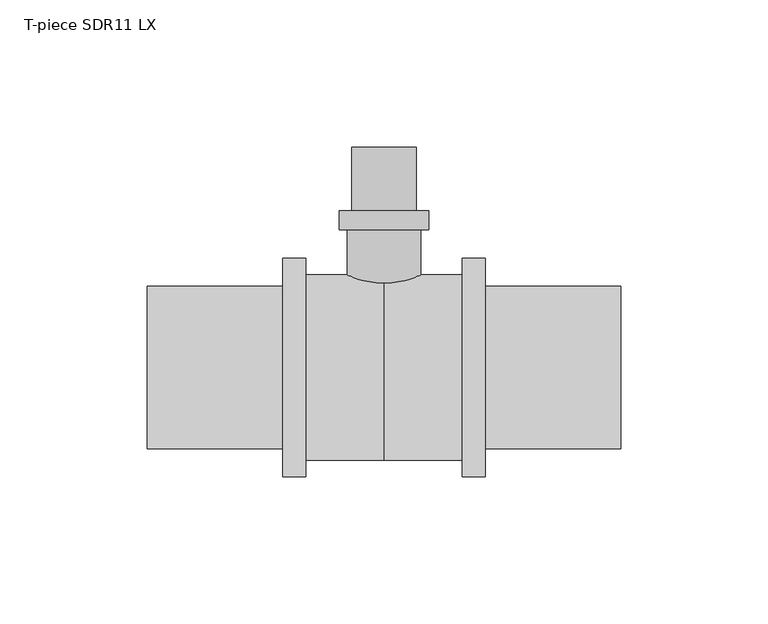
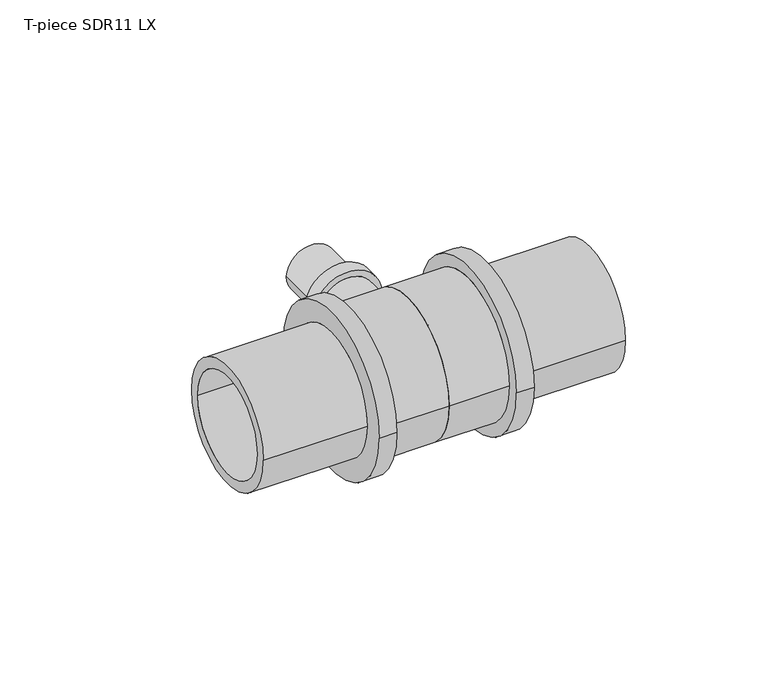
"""IFC4 building model written with IfcOpenShell, lengths in millimetres: pipe fitting geometry, T-piece SDR11 LX : T-piece LX SDR11 LX."""

from ifc_helpers import new_model, si_unit, point, frame, origin, place, context, project, spatial, polyline, circle_curve, ellipse_curve, trimmed, source, transform, mapped, element, save
from ifc_brep_helpers import plane_surface, cylinder_surface, revolved_surface, advanced_brep


def t_piece_sdr11_lx_8f242d45(model_context):
    return source(origin(), model_context, "Body", "AdvancedBrep", [
        advanced_brep(
        [(12.5, 0.7671231, 0.0), (-12.5, 0.7671231, 0.0), (-12.5, 46.8, 0.0), (12.5, 46.8, 0.0), (8.9, 74.7, 0.0), (-8.9, 74.7, 0.0), (-8.9, 0.0, 0.0), (8.9, 0.0, 0.0), (11.0, 53.2, 0.0), (-11.0, 53.2, 0.0), (-11.0, 74.7, 0.0), (11.0, 74.7, 0.0), (15.25, 46.8, 0.0), (-15.25, 46.8, 0.0), (-15.25, 53.2, 0.0), (15.25, 53.2, 0.0)],
        [
            (0, 1, circle_curve(frame((0.0, 0.7671231, 0.0), z_axis=(0.0, 1.0, 0.0), x_axis=(-1.0, 0.0, 0.0)), 12.5)),
            (1, 2),
            (2, 3, circle_curve(frame((0.0, 46.8, 0.0), z_axis=(0.0, -1.0, 0.0), x_axis=(-1.0, 0.0, 0.0)), 12.5)),
            (3, 0),
            (4, 5, circle_curve(frame((0.0, 74.7, 0.0), z_axis=(0.0, 1.0, 0.0), x_axis=(-1.0, 0.0, 0.0)), 8.9)),
            (5, 6),
            (6, 7, circle_curve(frame((0.0, 0.0, 0.0), z_axis=(0.0, -1.0, 0.0), x_axis=(-1.0, 0.0, 0.0)), 8.9)),
            (7, 4),
            (8, 9, circle_curve(frame((0.0, 53.2, 0.0), z_axis=(0.0, 1.0, 0.0), x_axis=(-1.0, 0.0, 0.0)), 11.0)),
            (9, 10),
            (10, 11, circle_curve(frame((0.0, 74.7, 0.0), z_axis=(0.0, -1.0, 0.0), x_axis=(-1.0, 0.0, 0.0)), 11.0)),
            (11, 8),
            (12, 13, circle_curve(frame((0.0, 46.8, 0.0), z_axis=(0.0, 1.0, 0.0), x_axis=(-1.0, 0.0, 0.0)), 15.25)),
            (13, 14),
            (14, 15, circle_curve(frame((0.0, 53.2, 0.0), z_axis=(0.0, -1.0, 0.0), x_axis=(-1.0, 0.0, 0.0)), 15.25)),
            (15, 12),
            (12, 13, circle_curve(frame((0.0, 46.8, 0.0), z_axis=(0.0, -1.0, 0.0), x_axis=(1.0, 0.0, 0.0)), 15.25)),
            (2, 3, circle_curve(frame((0.0, 46.8, 0.0), z_axis=(0.0, 1.0, 0.0), x_axis=(1.0, 0.0, 0.0)), 12.5)),
            (1, 0, circle_curve(frame((0.0, 0.7671231, 0.0), z_axis=(0.0, 1.0, 0.0), x_axis=(1.0, 0.0, 0.0)), 12.5)),
            (5, 4, circle_curve(frame((0.0, 74.7, 0.0), z_axis=(0.0, 1.0, 0.0), x_axis=(1.0, 0.0, 0.0)), 8.9)),
            (7, 6, circle_curve(frame((0.0, 0.0, 0.0), z_axis=(0.0, -1.0, 0.0), x_axis=(1.0, 0.0, 0.0)), 8.9)),
            (10, 11, circle_curve(frame((0.0, 74.7, 0.0), z_axis=(0.0, 1.0, 0.0), x_axis=(1.0, 0.0, 0.0)), 11.0)),
            (9, 8, circle_curve(frame((0.0, 53.2, 0.0), z_axis=(0.0, 1.0, 0.0), x_axis=(1.0, 0.0, 0.0)), 11.0)),
            (14, 15, circle_curve(frame((0.0, 53.2, 0.0), z_axis=(0.0, 1.0, 0.0), x_axis=(1.0, 0.0, 0.0)), 15.25)),
            (6, 1, circle_curve(frame((-4.1462802, 31.1392381, 0.0), z_axis=(0.0, 0.0, -1.0), x_axis=(0.0, -1.0, 0.0)), 31.5)),
            (0, 7, circle_curve(frame((4.1462802, 31.1392381, 0.0), z_axis=(0.0, 0.0, -1.0), x_axis=(0.0, -1.0, 0.0)), 31.5)),
        ],
        [
            cylinder_surface(frame((0.0, 0.0, 0.0), z_axis=(0.0, -1.0, 0.0), x_axis=(-1.0, 0.0, 0.0)), 12.5),
            revolved_surface(polyline([(-8.9, 0.0, 0.0), (-8.9, 74.7, 0.0)]), (0.0, 0.0, 0.0), (0.0, -1.0, 0.0)),
            cylinder_surface(frame((0.0, 0.0, 0.0), z_axis=(0.0, -1.0, 0.0), x_axis=(-1.0, 0.0, 0.0)), 11.0),
            cylinder_surface(frame((0.0, 0.0, 0.0), z_axis=(0.0, -1.0, 0.0), x_axis=(-1.0, 0.0, 0.0)), 15.25),
            plane_surface(frame((0.0, 46.8, 0.0), z_axis=(0.0, -1.0, 0.0), x_axis=(1.0, 0.0, 0.0))),
            cylinder_surface(frame((0.0, 0.0, 0.0), z_axis=(0.0, -1.0, 0.0), x_axis=(1.0, 0.0, 0.0)), 12.5),
            revolved_surface(polyline([(8.9, 0.0, 0.0), (8.9, 74.7, 0.0)]), (0.0, 0.0, 0.0), (0.0, -1.0, 0.0)),
            plane_surface(frame((0.0, 74.7, 0.0), z_axis=(0.0, 1.0, 0.0), x_axis=(1.0, 0.0, 0.0))),
            cylinder_surface(frame((0.0, 0.0, 0.0), z_axis=(0.0, -1.0, 0.0), x_axis=(1.0, 0.0, 0.0)), 11.0),
            plane_surface(frame((0.0, 53.2, 0.0), z_axis=(0.0, 1.0, 0.0), x_axis=(1.0, 0.0, 0.0))),
            cylinder_surface(frame((0.0, 0.0, 0.0), z_axis=(0.0, -1.0, 0.0), x_axis=(1.0, 0.0, 0.0)), 15.25),
            revolved_surface(trimmed(ellipse_curve(frame((-4.1462802, 31.1392381, 0.0), z_axis=(0.0, 0.0, 1.0), x_axis=(0.0, -1.0, 0.0)), 31.5, 31.5), [point((-12.5, 0.7671231, 0.0))], [point((-8.9, 0.0, 0.0))], True, "CARTESIAN"), (0.0, 0.0, 0.0), (0.0, -1.0, 0.0)),
            revolved_surface(trimmed(ellipse_curve(frame((4.1462802, 31.1392381, 0.0), z_axis=(0.0, 0.0, -1.0), x_axis=(0.0, -1.0, 0.0)), 31.5, 31.5), [point((12.5, 0.7671231, 0.0))], [point((8.9, 0.0, 0.0))], True, "CARTESIAN"), (0.0, 0.0, 0.0), (0.0, -1.0, 0.0)),
        ],
        [
            (0, [[1, 2, 3, 4]]),
            (1, [[5, 6, 7, 8]]),
            (2, [[9, 10, 11, 12]]),
            (3, [[13, 14, 15, 16]]),
            (4, [[17, -13], [18, -3]]),
            (5, [[19, -4, -18, -2]]),
            (6, [[20, -8, 21, -6]]),
            (7, [[22, -11], [-20, -5]]),
            (8, [[23, -12, -22, -10]]),
            (9, [[24, -15], [-23, -9]]),
            (10, [[-17, -16, -24, -14]]),
            (11, [[-7, 25, -1, 26]]),
            (12, [[-21, -26, -19, -25]]),
        ],
    ),
        advanced_brep(
        [(26.5, 31.5, 0.0), (26.5, -31.5, 0.0), (0.0, -31.5, 0.0), (0.0, 31.5, 0.0), (0.0, 22.75, 0.0), (0.0, -22.75, 0.0), (80.3, -22.75, 0.0), (80.3, 22.75, 0.0), (80.3, 27.55, 0.0), (80.3, -27.55, 0.0), (34.3, -27.55, 0.0), (34.3, 27.55, 0.0), (34.3, 37.0, 0.0), (34.3, -37.0, 0.0), (26.5, -37.0, 0.0), (26.5, 37.0, 0.0)],
        [
            (0, 1, circle_curve(frame((26.5, 0.0, 0.0), z_axis=(-1.0, 0.0, 0.0), x_axis=(0.0, -1.0, 0.0)), 31.5)),
            (1, 2),
            (2, 3, circle_curve(frame((0.0, 0.0, 0.0), z_axis=(1.0, 0.0, 0.0), x_axis=(0.0, -1.0, 0.0)), 31.5)),
            (3, 0),
            (4, 5, circle_curve(frame((0.0, 0.0, 0.0), z_axis=(-1.0, 0.0, 0.0), x_axis=(0.0, -1.0, 0.0)), 22.75)),
            (5, 6),
            (6, 7, circle_curve(frame((80.3, 0.0, 0.0), z_axis=(1.0, 0.0, 0.0), x_axis=(0.0, -1.0, 0.0)), 22.75)),
            (7, 4),
            (8, 9, circle_curve(frame((80.3, 0.0, 0.0), z_axis=(-1.0, 0.0, 0.0), x_axis=(0.0, -1.0, 0.0)), 27.55)),
            (9, 10),
            (10, 11, circle_curve(frame((34.3, 0.0, 0.0), z_axis=(1.0, 0.0, 0.0), x_axis=(0.0, -1.0, 0.0)), 27.55)),
            (11, 8),
            (12, 13, circle_curve(frame((34.3, 0.0, 0.0), z_axis=(-1.0, 0.0, 0.0), x_axis=(0.0, -1.0, 0.0)), 37.0)),
            (13, 14),
            (14, 15, circle_curve(frame((26.5, 0.0, 0.0), z_axis=(1.0, 0.0, 0.0), x_axis=(0.0, -1.0, 0.0)), 37.0)),
            (15, 12),
            (14, 15, circle_curve(frame((26.5, 0.0, 0.0), z_axis=(-1.0, 0.0, 0.0), x_axis=(0.0, 1.0, 0.0)), 37.0)),
            (0, 1, circle_curve(frame((26.5, 0.0, 0.0), z_axis=(1.0, 0.0, 0.0), x_axis=(0.0, 1.0, 0.0)), 31.5)),
            (3, 2, circle_curve(frame((0.0, 0.0, 0.0), z_axis=(1.0, 0.0, 0.0), x_axis=(0.0, 1.0, 0.0)), 31.5)),
            (4, 5, circle_curve(frame((0.0, 0.0, 0.0), z_axis=(1.0, 0.0, 0.0), x_axis=(0.0, 1.0, 0.0)), 22.75)),
            (7, 6, circle_curve(frame((80.3, 0.0, 0.0), z_axis=(1.0, 0.0, 0.0), x_axis=(0.0, 1.0, 0.0)), 22.75)),
            (8, 9, circle_curve(frame((80.3, 0.0, 0.0), z_axis=(1.0, 0.0, 0.0), x_axis=(0.0, 1.0, 0.0)), 27.55)),
            (11, 10, circle_curve(frame((34.3, 0.0, 0.0), z_axis=(1.0, 0.0, 0.0), x_axis=(0.0, 1.0, 0.0)), 27.55)),
            (12, 13, circle_curve(frame((34.3, 0.0, 0.0), z_axis=(1.0, 0.0, 0.0), x_axis=(0.0, 1.0, 0.0)), 37.0)),
        ],
        [
            cylinder_surface(frame((0.0, 0.0, 0.0), z_axis=(1.0, 0.0, 0.0), x_axis=(0.0, -1.0, 0.0)), 31.5),
            revolved_surface(polyline([(80.3, -22.75, 0.0), (0.0, -22.75, 0.0)]), (0.0, 0.0, 0.0), (1.0, 0.0, 0.0)),
            cylinder_surface(frame((0.0, 0.0, 0.0), z_axis=(1.0, 0.0, 0.0), x_axis=(0.0, -1.0, 0.0)), 27.55),
            cylinder_surface(frame((0.0, 0.0, 0.0), z_axis=(1.0, 0.0, 0.0), x_axis=(0.0, -1.0, 0.0)), 37.0),
            plane_surface(frame((26.5, 0.0, 0.0), z_axis=(-1.0, 0.0, 0.0), x_axis=(0.0, 1.0, 0.0))),
            cylinder_surface(frame((0.0, 0.0, 0.0), z_axis=(1.0, 0.0, 0.0), x_axis=(0.0, 1.0, 0.0)), 31.5),
            plane_surface(frame((0.0, 0.0, 0.0), z_axis=(-1.0, 0.0, 0.0), x_axis=(0.0, 1.0, 0.0))),
            revolved_surface(polyline([(80.3, 22.75, 0.0), (0.0, 22.75, 0.0)]), (0.0, 0.0, 0.0), (1.0, 0.0, 0.0)),
            plane_surface(frame((80.3, 0.0, 0.0), z_axis=(1.0, 0.0, 0.0), x_axis=(0.0, 1.0, 0.0))),
            cylinder_surface(frame((0.0, 0.0, 0.0), z_axis=(1.0, 0.0, 0.0), x_axis=(0.0, 1.0, 0.0)), 27.55),
            plane_surface(frame((34.3, 0.0, 0.0), z_axis=(1.0, 0.0, 0.0), x_axis=(0.0, 1.0, 0.0))),
            cylinder_surface(frame((0.0, 0.0, 0.0), z_axis=(1.0, 0.0, 0.0), x_axis=(0.0, 1.0, 0.0)), 37.0),
        ],
        [
            (0, [[1, 2, 3, 4]]),
            (1, [[5, 6, 7, 8]]),
            (2, [[9, 10, 11, 12]]),
            (3, [[13, 14, 15, 16]]),
            (4, [[17, -15], [18, -1]]),
            (5, [[-18, -4, 19, -2]]),
            (6, [[-19, -3], [20, -5]]),
            (7, [[-20, -8, 21, -6]]),
            (8, [[22, -9], [-21, -7]]),
            (9, [[-22, -12, 23, -10]]),
            (10, [[24, -13], [-23, -11]]),
            (11, [[-24, -16, -17, -14]]),
        ],
    ),
        advanced_brep(
        [(0.0, 31.5, 0.0), (0.0, -31.5, 0.0), (-26.5, -31.5, 0.0), (-26.5, 31.5, 0.0), (-80.3, 22.75, 0.0), (-80.3, -22.75, 0.0), (0.0, -22.75, 0.0), (0.0, 22.75, 0.0), (-34.3, 27.55, 0.0), (-34.3, -27.55, 0.0), (-80.3, -27.55, 0.0), (-80.3, 27.55, 0.0), (-26.5, 37.0, 0.0), (-26.5, -37.0, 0.0), (-34.3, -37.0, 0.0), (-34.3, 37.0, 0.0)],
        [
            (0, 1, circle_curve(frame((0.0, 0.0, 0.0), z_axis=(-1.0, 0.0, 0.0), x_axis=(0.0, -1.0, 0.0)), 31.5)),
            (1, 2),
            (2, 3, circle_curve(frame((-26.5, 0.0, 0.0), z_axis=(1.0, 0.0, 0.0), x_axis=(0.0, -1.0, 0.0)), 31.5)),
            (3, 0),
            (4, 5, circle_curve(frame((-80.3, 0.0, 0.0), z_axis=(-1.0, 0.0, 0.0), x_axis=(0.0, -1.0, 0.0)), 22.75)),
            (5, 6),
            (6, 7, circle_curve(frame((0.0, 0.0, 0.0), z_axis=(1.0, 0.0, 0.0), x_axis=(0.0, -1.0, 0.0)), 22.75)),
            (7, 4),
            (8, 9, circle_curve(frame((-34.3, 0.0, 0.0), z_axis=(-1.0, 0.0, 0.0), x_axis=(0.0, -1.0, 0.0)), 27.55)),
            (9, 10),
            (10, 11, circle_curve(frame((-80.3, 0.0, 0.0), z_axis=(1.0, 0.0, 0.0), x_axis=(0.0, -1.0, 0.0)), 27.55)),
            (11, 8),
            (12, 13, circle_curve(frame((-26.5, 0.0, 0.0), z_axis=(-1.0, 0.0, 0.0), x_axis=(0.0, -1.0, 0.0)), 37.0)),
            (13, 14),
            (14, 15, circle_curve(frame((-34.3, 0.0, 0.0), z_axis=(1.0, 0.0, 0.0), x_axis=(0.0, -1.0, 0.0)), 37.0)),
            (15, 12),
            (12, 13, circle_curve(frame((-26.5, 0.0, 0.0), z_axis=(1.0, 0.0, 0.0), x_axis=(0.0, 1.0, 0.0)), 37.0)),
            (2, 3, circle_curve(frame((-26.5, 0.0, 0.0), z_axis=(-1.0, 0.0, 0.0), x_axis=(0.0, 1.0, 0.0)), 31.5)),
            (1, 0, circle_curve(frame((0.0, 0.0, 0.0), z_axis=(-1.0, 0.0, 0.0), x_axis=(0.0, 1.0, 0.0)), 31.5)),
            (6, 7, circle_curve(frame((0.0, 0.0, 0.0), z_axis=(-1.0, 0.0, 0.0), x_axis=(0.0, 1.0, 0.0)), 22.75)),
            (5, 4, circle_curve(frame((-80.3, 0.0, 0.0), z_axis=(-1.0, 0.0, 0.0), x_axis=(0.0, 1.0, 0.0)), 22.75)),
            (10, 11, circle_curve(frame((-80.3, 0.0, 0.0), z_axis=(-1.0, 0.0, 0.0), x_axis=(0.0, 1.0, 0.0)), 27.55)),
            (9, 8, circle_curve(frame((-34.3, 0.0, 0.0), z_axis=(-1.0, 0.0, 0.0), x_axis=(0.0, 1.0, 0.0)), 27.55)),
            (14, 15, circle_curve(frame((-34.3, 0.0, 0.0), z_axis=(-1.0, 0.0, 0.0), x_axis=(0.0, 1.0, 0.0)), 37.0)),
        ],
        [
            cylinder_surface(frame((0.0, 0.0, 0.0), z_axis=(1.0, 0.0, 0.0), x_axis=(0.0, -1.0, 0.0)), 31.5),
            revolved_surface(polyline([(0.0, -22.75, 0.0), (-80.3, -22.75, 0.0)]), (0.0, 0.0, 0.0), (1.0, 0.0, 0.0)),
            cylinder_surface(frame((0.0, 0.0, 0.0), z_axis=(1.0, 0.0, 0.0), x_axis=(0.0, -1.0, 0.0)), 27.55),
            cylinder_surface(frame((0.0, 0.0, 0.0), z_axis=(1.0, 0.0, 0.0), x_axis=(0.0, -1.0, 0.0)), 37.0),
            plane_surface(frame((-26.5, 0.0, 0.0), z_axis=(1.0, 0.0, 0.0), x_axis=(0.0, 1.0, 0.0))),
            cylinder_surface(frame((0.0, 0.0, 0.0), z_axis=(1.0, 0.0, 0.0), x_axis=(0.0, 1.0, 0.0)), 31.5),
            plane_surface(frame((0.0, 0.0, 0.0), z_axis=(1.0, 0.0, 0.0), x_axis=(0.0, 1.0, 0.0))),
            revolved_surface(polyline([(0.0, 22.75, 0.0), (-80.3, 22.75, 0.0)]), (0.0, 0.0, 0.0), (1.0, 0.0, 0.0)),
            plane_surface(frame((-80.3, 0.0, 0.0), z_axis=(-1.0, 0.0, 0.0), x_axis=(0.0, 1.0, 0.0))),
            cylinder_surface(frame((0.0, 0.0, 0.0), z_axis=(1.0, 0.0, 0.0), x_axis=(0.0, 1.0, 0.0)), 27.55),
            plane_surface(frame((-34.3, 0.0, 0.0), z_axis=(-1.0, 0.0, 0.0), x_axis=(0.0, 1.0, 0.0))),
            cylinder_surface(frame((0.0, 0.0, 0.0), z_axis=(1.0, 0.0, 0.0), x_axis=(0.0, 1.0, 0.0)), 37.0),
        ],
        [
            (0, [[1, 2, 3, 4]]),
            (1, [[5, 6, 7, 8]]),
            (2, [[9, 10, 11, 12]]),
            (3, [[13, 14, 15, 16]]),
            (4, [[17, -13], [18, -3]]),
            (5, [[19, -4, -18, -2]]),
            (6, [[-19, -1], [20, -7]]),
            (7, [[21, -8, -20, -6]]),
            (8, [[22, -11], [-21, -5]]),
            (9, [[23, -12, -22, -10]]),
            (10, [[24, -15], [-23, -9]]),
            (11, [[-17, -16, -24, -14]]),
        ],
    ),
    ])


if __name__ == "__main__":
    model = new_model("IFC4")
    model_context = context("Model", 3, world=origin())
    ifc_project = project(units=[si_unit("LENGTHUNIT", "METRE", prefix="MILLI")], contexts=[model_context])
    site = spatial("IfcSite", under=ifc_project)
    building = spatial("IfcBuilding", under=site)
    placement = place(None, origin())
    t_piece_sdr11_lx_shape = t_piece_sdr11_lx_8f242d45(model_context)
    element("IfcPipeFitting", 1, ObjectType="T-piece SDR11 LX : T-piece LX SDR11 LX", at=placement, inside=building, context=model_context, shape_type="MappedRepresentation", body=[
        mapped(t_piece_sdr11_lx_shape, transform((0.0, 0.0, 0.0), x_axis=(1.0, 0.0, 0.0), y_axis=(0.0, 1.0, 0.0), z_axis=(0.0, 0.0, 1.0))),
    ])
    save(model, "model.ifc")
